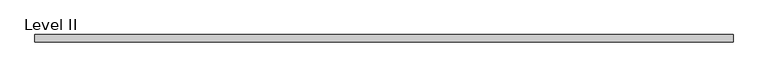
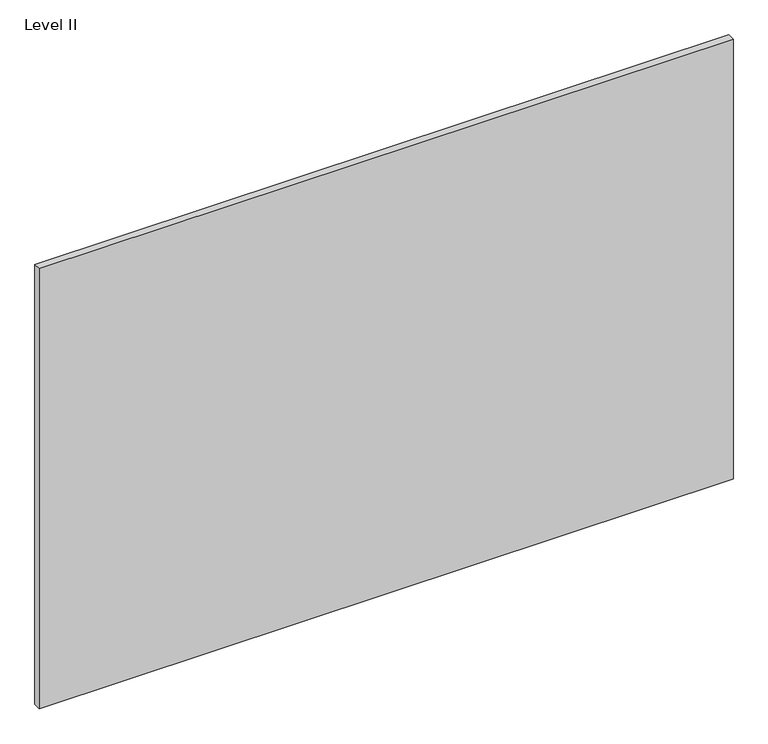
"""IFC4 building model written with IfcOpenShell, lengths in millimetres: proxy geometry, Panel-Fascia-Teknion-Altos-Standard : Level II."""

from ifc_helpers import new_model, si_unit, frame, origin, place, context, project, spatial, polyline, outline, extrude, source, transform, mapped, element, save


def level_ii_82d1d981(model_context):
    return source(origin(), model_context, "Body", "SweptSolid", [
        extrude(outline(polyline([(904.2300781, -9.525), (-904.2300781, -9.525), (-904.2300781, 9.525), (904.2300781, 9.525), (904.2300781, -9.525)])), frame((0.0, 0.0, 3.175), z_axis=(0.0, 0.0, 1.0), x_axis=(1.0, 0.0, 0.0)), (0.0, 0.0, 1.0), 1212.85),
    ])


if __name__ == "__main__":
    model = new_model("IFC4")
    model_context = context("Model", 3, world=origin())
    ifc_project = project(units=[si_unit("LENGTHUNIT", "METRE", prefix="MILLI")], contexts=[model_context])
    site = spatial("IfcSite", under=ifc_project)
    building = spatial("IfcBuilding", under=site)
    placement = place(None, origin())
    level_ii_shape = level_ii_82d1d981(model_context)
    element("IfcBuildingElementProxy", 1, Name="Panel-Fascia-Teknion-Altos-Standard : Level II", ObjectType="Panel-Fascia-Teknion-Altos-Standard : Level II", at=placement, inside=building, context=model_context, shape_type="MappedRepresentation", body=[
        mapped(level_ii_shape, transform((0.0, 0.0, 0.0), x_axis=(1.0, 0.0, 0.0), y_axis=(0.0, 1.0, 0.0), z_axis=(0.0, 0.0, 1.0))),
    ])
    save(model, "model.ifc")
